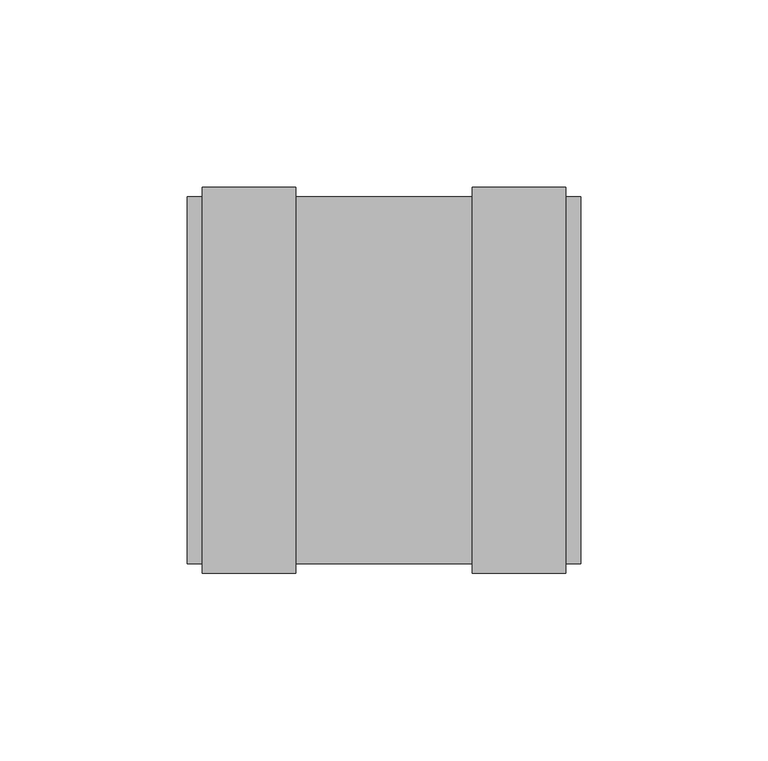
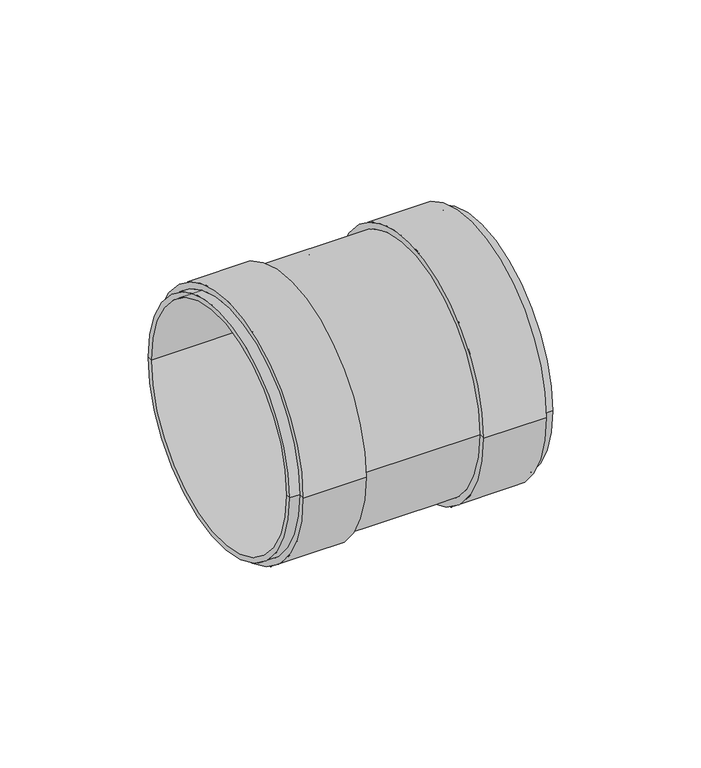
"""IFC4 building model written with IfcOpenShell, lengths in millimetres: duct fitting geometry, NLRS_57_DUF_UN_sleeve joint-SH_M&G : ø75 ø92 (nested)."""

from ifc_helpers import new_model, si_unit, frame, origin, place, context, project, spatial, polyline, circle_curve, source, transform, mapped, element, save
from ifc_brep_helpers import plane_surface, cylinder_surface, revolved_surface, advanced_brep


def duct_fitting_77628266(model_context):
    return source(origin(), model_context, "Body", "AdvancedBrep", [
        advanced_brep(
        [(-52.5, -49.0, 0.0), (-52.5, 49.0, 0.0), (-48.5, 49.0, 0.0), (-48.5, -49.0, 0.0), (-52.5, -47.0, 0.0), (-52.5, 47.0, 0.0), (-1.0, -47.0, 0.0), (-1.0, 47.0, 0.0), (-1.0, -45.0, 0.0), (-1.0, 45.0, 0.0), (1.0, -47.0, 0.0), (1.0, 47.0, 0.0), (1.0, 45.0, 0.0), (1.0, -45.0, 0.0), (52.5, -47.0, 0.0), (52.5, 47.0, 0.0), (52.5, -49.0, 0.0), (52.5, 49.0, 0.0), (48.5, -49.0, 0.0), (48.5, 49.0, 0.0), (48.5, -51.5, 0.0), (48.5, 51.5, 0.0), (23.5, -51.5, 0.0), (23.5, 51.5, 0.0), (23.5, -49.0, 0.0), (23.5, 49.0, 0.0), (-23.5, -49.0, 0.0), (-23.5, 49.0, 0.0), (-23.5, -51.5, 0.0), (-23.5, 51.5, 0.0), (-48.5, -51.5, 0.0), (-48.5, 51.5, 0.0)],
        [
            (0, 1, circle_curve(frame((-52.5, 0.0, 0.0), z_axis=(1.0, 0.0, 0.0), x_axis=(0.0, 1.0, 0.0)), 49.0)),
            (1, 2),
            (2, 3, circle_curve(frame((-48.5, 0.0, 0.0), z_axis=(-1.0, 0.0, 0.0), x_axis=(0.0, 1.0, 0.0)), 49.0)),
            (3, 0),
            (1, 0, circle_curve(frame((-52.5, 0.0, 0.0), z_axis=(1.0, 0.0, 0.0), x_axis=(0.0, 1.0, 0.0)), 49.0)),
            (3, 2, circle_curve(frame((-48.5, 0.0, 0.0), z_axis=(-1.0, 0.0, 0.0), x_axis=(0.0, 1.0, 0.0)), 49.0)),
            (4, 5, circle_curve(frame((-52.5, 0.0, 0.0), z_axis=(1.0, 0.0, 0.0), x_axis=(0.0, 1.0, 0.0)), 47.0)),
            (5, 1),
            (0, 4),
            (5, 4, circle_curve(frame((-52.5, 0.0, 0.0), z_axis=(1.0, 0.0, 0.0), x_axis=(0.0, 1.0, 0.0)), 47.0)),
            (6, 7, circle_curve(frame((-1.0, 0.0, 0.0), z_axis=(1.0, 0.0, 0.0), x_axis=(0.0, 1.0, 0.0)), 47.0)),
            (7, 5),
            (4, 6),
            (7, 6, circle_curve(frame((-1.0, 0.0, 0.0), z_axis=(1.0, 0.0, 0.0), x_axis=(0.0, 1.0, 0.0)), 47.0)),
            (8, 9, circle_curve(frame((-1.0, 0.0, 0.0), z_axis=(1.0, 0.0, 0.0), x_axis=(0.0, 1.0, 0.0)), 45.0)),
            (9, 7),
            (6, 8),
            (9, 8, circle_curve(frame((-1.0, 0.0, 0.0), z_axis=(1.0, 0.0, 0.0), x_axis=(0.0, 1.0, 0.0)), 45.0)),
            (10, 11, circle_curve(frame((1.0, 0.0, 0.0), z_axis=(1.0, 0.0, 0.0), x_axis=(0.0, 1.0, 0.0)), 47.0)),
            (11, 12),
            (12, 13, circle_curve(frame((1.0, 0.0, 0.0), z_axis=(-1.0, 0.0, 0.0), x_axis=(0.0, 1.0, 0.0)), 45.0)),
            (13, 10),
            (11, 10, circle_curve(frame((1.0, 0.0, 0.0), z_axis=(1.0, 0.0, 0.0), x_axis=(0.0, 1.0, 0.0)), 47.0)),
            (13, 12, circle_curve(frame((1.0, 0.0, 0.0), z_axis=(-1.0, 0.0, 0.0), x_axis=(0.0, 1.0, 0.0)), 45.0)),
            (14, 15, circle_curve(frame((52.5, 0.0, 0.0), z_axis=(1.0, 0.0, 0.0), x_axis=(0.0, 1.0, 0.0)), 47.0)),
            (15, 11),
            (10, 14),
            (15, 14, circle_curve(frame((52.5, 0.0, 0.0), z_axis=(1.0, 0.0, 0.0), x_axis=(0.0, 1.0, 0.0)), 47.0)),
            (16, 17, circle_curve(frame((52.5, 0.0, 0.0), z_axis=(1.0, 0.0, 0.0), x_axis=(0.0, 1.0, 0.0)), 49.0)),
            (17, 15),
            (14, 16),
            (17, 16, circle_curve(frame((52.5, 0.0, 0.0), z_axis=(1.0, 0.0, 0.0), x_axis=(0.0, 1.0, 0.0)), 49.0)),
            (18, 19, circle_curve(frame((48.5, 0.0, 0.0), z_axis=(1.0, 0.0, 0.0), x_axis=(0.0, 1.0, 0.0)), 49.0)),
            (19, 17),
            (16, 18),
            (19, 18, circle_curve(frame((48.5, 0.0, 0.0), z_axis=(1.0, 0.0, 0.0), x_axis=(0.0, 1.0, 0.0)), 49.0)),
            (20, 21, circle_curve(frame((48.5, 0.0, 0.0), z_axis=(1.0, 0.0, 0.0), x_axis=(0.0, 1.0, 0.0)), 51.5)),
            (21, 19),
            (18, 20),
            (21, 20, circle_curve(frame((48.5, 0.0, 0.0), z_axis=(1.0, 0.0, 0.0), x_axis=(0.0, 1.0, 0.0)), 51.5)),
            (22, 23, circle_curve(frame((23.5, 0.0, 0.0), z_axis=(1.0, 0.0, 0.0), x_axis=(0.0, 1.0, 0.0)), 51.5)),
            (23, 21),
            (20, 22),
            (23, 22, circle_curve(frame((23.5, 0.0, 0.0), z_axis=(1.0, 0.0, 0.0), x_axis=(0.0, 1.0, 0.0)), 51.5)),
            (24, 25, circle_curve(frame((23.5, 0.0, 0.0), z_axis=(1.0, 0.0, 0.0), x_axis=(0.0, 1.0, 0.0)), 49.0)),
            (25, 23),
            (22, 24),
            (25, 24, circle_curve(frame((23.5, 0.0, 0.0), z_axis=(1.0, 0.0, 0.0), x_axis=(0.0, 1.0, 0.0)), 49.0)),
            (26, 27, circle_curve(frame((-23.5, 0.0, 0.0), z_axis=(1.0, 0.0, 0.0), x_axis=(0.0, 1.0, 0.0)), 49.0)),
            (27, 25),
            (24, 26),
            (27, 26, circle_curve(frame((-23.5, 0.0, 0.0), z_axis=(1.0, 0.0, 0.0), x_axis=(0.0, 1.0, 0.0)), 49.0)),
            (28, 29, circle_curve(frame((-23.5, 0.0, 0.0), z_axis=(1.0, 0.0, 0.0), x_axis=(0.0, 1.0, 0.0)), 51.5)),
            (29, 27),
            (26, 28),
            (29, 28, circle_curve(frame((-23.5, 0.0, 0.0), z_axis=(1.0, 0.0, 0.0), x_axis=(0.0, 1.0, 0.0)), 51.5)),
            (30, 31, circle_curve(frame((-48.5, 0.0, 0.0), z_axis=(1.0, 0.0, 0.0), x_axis=(0.0, 1.0, 0.0)), 51.5)),
            (31, 29),
            (28, 30),
            (31, 30, circle_curve(frame((-48.5, 0.0, 0.0), z_axis=(1.0, 0.0, 0.0), x_axis=(0.0, 1.0, 0.0)), 51.5)),
            (2, 31),
            (30, 3),
            (12, 9),
            (8, 13),
        ],
        [
            cylinder_surface(frame((2000.0, 0.0, 0.0), z_axis=(-1.0, 0.0, 0.0), x_axis=(0.0, 1.0, 0.0)), 49.0),
            plane_surface(frame((-52.5, 0.0, 0.0), z_axis=(-1.0, 0.0, 0.0), x_axis=(0.0, 1.0, 0.0))),
            revolved_surface(polyline([(-52.5, 47.0, 0.0), (-1.0, 47.0, 0.0)]), (2000.0, 0.0, 0.0), (-1.0, 0.0, 0.0)),
            plane_surface(frame((-1.0, 0.0, 0.0), z_axis=(-1.0, 0.0, 0.0), x_axis=(0.0, 1.0, 0.0))),
            plane_surface(frame((1.0, 0.0, 0.0), z_axis=(1.0, 0.0, 0.0), x_axis=(0.0, 1.0, 0.0))),
            revolved_surface(polyline([(1.0, 47.0, 0.0), (52.5, 47.0, 0.0)]), (2000.0, 0.0, 0.0), (-1.0, 0.0, 0.0)),
            plane_surface(frame((52.5, 0.0, 0.0), z_axis=(1.0, 0.0, 0.0), x_axis=(0.0, 1.0, 0.0))),
            plane_surface(frame((48.5, 0.0, 0.0), z_axis=(1.0, 0.0, 0.0), x_axis=(0.0, 1.0, 0.0))),
            cylinder_surface(frame((2000.0, 0.0, 0.0), z_axis=(-1.0, 0.0, 0.0), x_axis=(0.0, 1.0, 0.0)), 51.5),
            plane_surface(frame((23.5, 0.0, 0.0), z_axis=(-1.0, 0.0, 0.0), x_axis=(0.0, 1.0, 0.0))),
            plane_surface(frame((-23.5, 0.0, 0.0), z_axis=(1.0, 0.0, 0.0), x_axis=(0.0, 1.0, 0.0))),
            plane_surface(frame((-48.5, 0.0, 0.0), z_axis=(-1.0, 0.0, 0.0), x_axis=(0.0, 1.0, 0.0))),
            revolved_surface(polyline([(-1.0, 45.0, 0.0), (1.0, 45.0, 0.0)]), (2000.0, 0.0, 0.0), (-1.0, 0.0, 0.0)),
        ],
        [
            (0, [[1, 2, 3, 4]]),
            (0, [[5, -4, 6, -2]]),
            (1, [[7, 8, -1, 9]]),
            (1, [[10, -9, -5, -8]]),
            (2, [[11, 12, -7, 13]]),
            (2, [[14, -13, -10, -12]]),
            (3, [[15, 16, -11, 17]]),
            (3, [[18, -17, -14, -16]]),
            (4, [[19, 20, 21, 22]]),
            (4, [[23, -22, 24, -20]]),
            (5, [[25, 26, -19, 27]]),
            (5, [[28, -27, -23, -26]]),
            (6, [[29, 30, -25, 31]]),
            (6, [[32, -31, -28, -30]]),
            (0, [[33, 34, -29, 35]]),
            (0, [[36, -35, -32, -34]]),
            (7, [[37, 38, -33, 39]]),
            (7, [[40, -39, -36, -38]]),
            (8, [[41, 42, -37, 43]]),
            (8, [[44, -43, -40, -42]]),
            (9, [[45, 46, -41, 47]]),
            (9, [[48, -47, -44, -46]]),
            (0, [[49, 50, -45, 51]]),
            (0, [[52, -51, -48, -50]]),
            (10, [[53, 54, -49, 55]]),
            (10, [[56, -55, -52, -54]]),
            (8, [[57, 58, -53, 59]]),
            (8, [[60, -59, -56, -58]]),
            (11, [[-3, 61, -57, 62]]),
            (11, [[-6, -62, -60, -61]]),
            (12, [[-21, 63, -15, 64]]),
            (12, [[-24, -64, -18, -63]]),
        ],
    ),
    ])


if __name__ == "__main__":
    model = new_model("IFC4")
    model_context = context("Model", 3, world=origin())
    ifc_project = project(units=[si_unit("LENGTHUNIT", "METRE", prefix="MILLI")], contexts=[model_context])
    site = spatial("IfcSite", under=ifc_project)
    building = spatial("IfcBuilding", under=site)
    placement = place(None, origin())
    duct_fitting_shape = duct_fitting_77628266(model_context)
    element("IfcDuctFitting", 1, ObjectType="NLRS_57_DUF_UN_sleeve joint-SH_M&G : ø75 ø92 (nested)", at=placement, inside=building, context=model_context, shape_type="MappedRepresentation", body=[
        mapped(duct_fitting_shape, transform((0.0, 0.0, 0.0), x_axis=(1.0, 0.0, 0.0), y_axis=(0.0, 1.0, 0.0), z_axis=(0.0, 0.0, 1.0))),
    ])
    save(model, "model.ifc")
